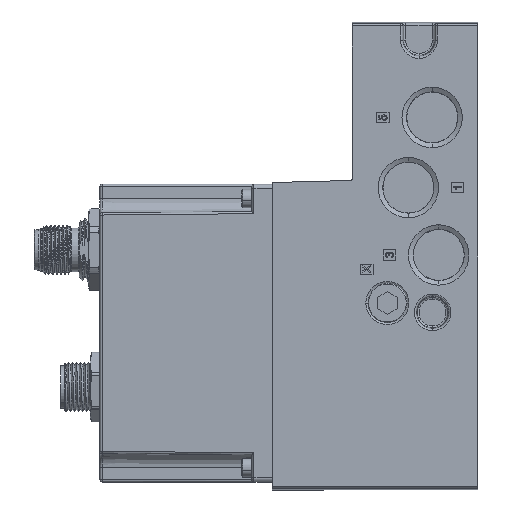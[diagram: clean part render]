
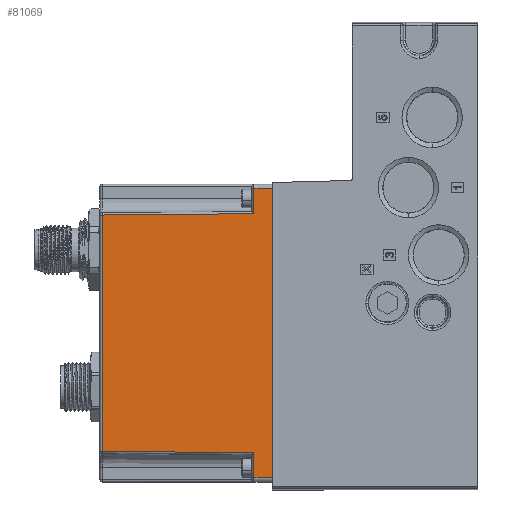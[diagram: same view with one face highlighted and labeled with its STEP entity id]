
A CAD part, left-side view. The second image highlights one B-rep face of the part: STEP entity #81069.
In plain terms, the highlighted planar face has unit normal (-1, 0, 0) as drawn and (0, 0, -1) by its records, which use the part's own axes.
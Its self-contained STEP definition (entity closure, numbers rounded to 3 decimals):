
#553 = PLANE ( 'NONE',  #17063 ) ;
#2202 = DIRECTION ( 'NONE',  ( 0., 1., 0. ) ) ;
#2996 = DIRECTION ( 'NONE',  ( 1., 0., 0. ) ) ;
#6419 = VERTEX_POINT ( 'NONE', #38703 ) ;
#8675 = EDGE_CURVE ( 'NONE', #149104, #136171, #111608, .T. ) ;
#9366 = ORIENTED_EDGE ( 'NONE', *, *, #62117, .T. ) ;
#10532 = CARTESIAN_POINT ( 'NONE',  ( 28.772, 42.567, -13.4 ) ) ;
#11230 = VECTOR ( 'NONE', #99686, 1000. ) ;
#14575 = LINE ( 'NONE', #114954, #107100 ) ;
#17063 = AXIS2_PLACEMENT_3D ( 'NONE', #162857, #89480, #2996 ) ;
#22515 = VECTOR ( 'NONE', #122440, 1000. ) ;
#24403 = DIRECTION ( 'NONE',  ( 0.009, 1., 0. ) ) ;
#25925 = ORIENTED_EDGE ( 'NONE', *, *, #32547, .T. ) ;
#29350 = CARTESIAN_POINT ( 'NONE',  ( 35.25, 42., -13.4 ) ) ;
#30963 = ORIENTED_EDGE ( 'NONE', *, *, #152803, .T. ) ;
#32547 = EDGE_CURVE ( 'NONE', #111993, #6419, #147159, .T. ) ;
#36709 = CARTESIAN_POINT ( 'NONE',  ( -28.778, 41.935, -13.4 ) ) ;
#36975 = CARTESIAN_POINT ( 'NONE',  ( 29.104, 4.5, -13.4 ) ) ;
#38703 = CARTESIAN_POINT ( 'NONE',  ( -35.25, 0., -13.4 ) ) ;
#39966 = VECTOR ( 'NONE', #99308, 1000. ) ;
#42488 = DIRECTION ( 'NONE',  ( 0., -1., 0. ) ) ;
#43514 = VECTOR ( 'NONE', #91003, 1000. ) ;
#49477 = LINE ( 'NONE', #148332, #11230 ) ;
#49993 = LINE ( 'NONE', #10532, #22515 ) ;
#54203 = EDGE_CURVE ( 'NONE', #6419, #113430, #14575, .T. ) ;
#55656 = EDGE_CURVE ( 'NONE', #136171, #120522, #110946, .T. ) ;
#59877 = CARTESIAN_POINT ( 'NONE',  ( 35.25, 0., -13.4 ) ) ;
#62117 = EDGE_CURVE ( 'NONE', #96443, #145657, #49477, .T. ) ;
#67624 = ORIENTED_EDGE ( 'NONE', *, *, #97634, .T. ) ;
#70314 = EDGE_LOOP ( 'NONE', ( #67624, #9366, #137359, #25925, #88817, #30963, #131564, #122339 ) ) ;
#72690 = VECTOR ( 'NONE', #42488, 1000. ) ;
#81069 = ADVANCED_FACE ( 'NONE', ( #124874 ), #553, .F. ) ;
#84401 = EDGE_CURVE ( 'NONE', #145657, #111993, #140540, .T. ) ;
#88817 = ORIENTED_EDGE ( 'NONE', *, *, #54203, .T. ) ;
#89480 = DIRECTION ( 'NONE',  ( 0., 0., 1. ) ) ;
#91003 = DIRECTION ( 'NONE',  ( 1., 0., 0. ) ) ;
#96443 = VERTEX_POINT ( 'NONE', #36975 ) ;
#97634 = EDGE_CURVE ( 'NONE', #120522, #96443, #49993, .T. ) ;
#99308 = DIRECTION ( 'NONE',  ( -1., 0., 0. ) ) ;
#99686 = DIRECTION ( 'NONE',  ( 1., 0., 0. ) ) ;
#107100 = VECTOR ( 'NONE', #2202, 1000. ) ;
#110946 = LINE ( 'NONE', #133245, #123209 ) ;
#111608 = LINE ( 'NONE', #36709, #114858 ) ;
#111635 = CARTESIAN_POINT ( 'NONE',  ( -36.25, 0., -13.4 ) ) ;
#111993 = VERTEX_POINT ( 'NONE', #59877 ) ;
#113430 = VERTEX_POINT ( 'NONE', #134877 ) ;
#114858 = VECTOR ( 'NONE', #24403, 1000. ) ;
#114954 = CARTESIAN_POINT ( 'NONE',  ( -35.25, 42., -13.4 ) ) ;
#120522 = VERTEX_POINT ( 'NONE', #162259 ) ;
#122339 = ORIENTED_EDGE ( 'NONE', *, *, #55656, .T. ) ;
#122440 = DIRECTION ( 'NONE',  ( 0.009, -1., 0. ) ) ;
#122490 = DIRECTION ( 'NONE',  ( 1., 0., 0. ) ) ;
#123209 = VECTOR ( 'NONE', #122490, 1000. ) ;
#124874 = FACE_OUTER_BOUND ( 'NONE', #70314, .T. ) ;
#131564 = ORIENTED_EDGE ( 'NONE', *, *, #8675, .T. ) ;
#133245 = CARTESIAN_POINT ( 'NONE',  ( -36.25, 41.5, -13.4 ) ) ;
#134877 = CARTESIAN_POINT ( 'NONE',  ( -35.25, 4.5, -13.4 ) ) ;
#136171 = VERTEX_POINT ( 'NONE', #153955 ) ;
#137359 = ORIENTED_EDGE ( 'NONE', *, *, #84401, .T. ) ;
#140540 = LINE ( 'NONE', #29350, #72690 ) ;
#145657 = VERTEX_POINT ( 'NONE', #162217 ) ;
#147159 = LINE ( 'NONE', #111635, #39966 ) ;
#148332 = CARTESIAN_POINT ( 'NONE',  ( -36.25, 4.5, -13.4 ) ) ;
#149104 = VERTEX_POINT ( 'NONE', #159955 ) ;
#152011 = LINE ( 'NONE', #153624, #43514 ) ;
#152803 = EDGE_CURVE ( 'NONE', #113430, #149104, #152011, .T. ) ;
#153624 = CARTESIAN_POINT ( 'NONE',  ( -36.25, 4.5, -13.4 ) ) ;
#153955 = CARTESIAN_POINT ( 'NONE',  ( -28.781, 41.5, -13.4 ) ) ;
#159955 = CARTESIAN_POINT ( 'NONE',  ( -29.104, 4.5, -13.4 ) ) ;
#162217 = CARTESIAN_POINT ( 'NONE',  ( 35.25, 4.5, -13.4 ) ) ;
#162259 = CARTESIAN_POINT ( 'NONE',  ( 28.781, 41.5, -13.4 ) ) ;
#162857 = CARTESIAN_POINT ( 'NONE',  ( -36.25, 42., -13.4 ) ) ;
